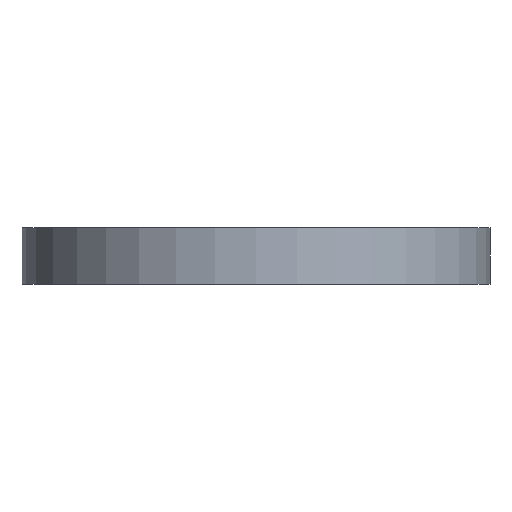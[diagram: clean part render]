
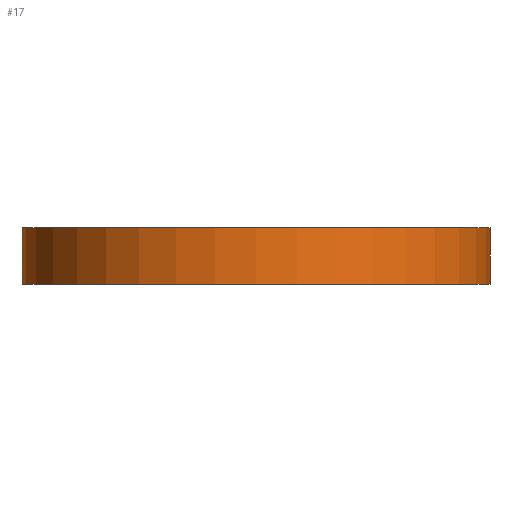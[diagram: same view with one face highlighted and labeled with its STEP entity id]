
A CAD part, front view. The second image highlights one B-rep face of the part: STEP entity #17.
In plain terms, the highlighted cylindrical face has radius 25 mm (diameter 50 mm), a full revolution.
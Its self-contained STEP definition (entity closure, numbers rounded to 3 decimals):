
#17 = ADVANCED_FACE('',(#18),#31,.T.);
#18 = FACE_BOUND('',#19,.T.);
#19 = EDGE_LOOP('',(#20,#54,#77,#104));
#20 = ORIENTED_EDGE('',*,*,#21,.F.);
#21 = EDGE_CURVE('',#22,#22,#24,.T.);
#22 = VERTEX_POINT('',#23);
#23 = CARTESIAN_POINT('',(25.,0.,6.));
#24 = SURFACE_CURVE('',#25,(#30,#42),.PCURVE_S1.);
#25 = CIRCLE('',#26,25.);
#26 = AXIS2_PLACEMENT_3D('',#27,#28,#29);
#27 = CARTESIAN_POINT('',(0.,0.,6.));
#28 = DIRECTION('',(0.,0.,1.));
#29 = DIRECTION('',(1.,0.,-0.));
#30 = PCURVE('',#31,#36);
#31 = CYLINDRICAL_SURFACE('',#32,25.);
#32 = AXIS2_PLACEMENT_3D('',#33,#34,#35);
#33 = CARTESIAN_POINT('',(0.,0.,0.));
#34 = DIRECTION('',(0.,0.,1.));
#35 = DIRECTION('',(1.,0.,-0.));
#36 = DEFINITIONAL_REPRESENTATION('',(#37),#41);
#37 = LINE('',#38,#39);
#38 = CARTESIAN_POINT('',(0.,6.));
#39 = VECTOR('',#40,1.);
#40 = DIRECTION('',(1.,0.));
#41 = ( GEOMETRIC_REPRESENTATION_CONTEXT(2) 
PARAMETRIC_REPRESENTATION_CONTEXT() REPRESENTATION_CONTEXT('2D SPACE',''
  ) );
#42 = PCURVE('',#43,#48);
#43 = PLANE('',#44);
#44 = AXIS2_PLACEMENT_3D('',#45,#46,#47);
#45 = CARTESIAN_POINT('',(0.,0.,6.));
#46 = DIRECTION('',(0.,0.,1.));
#47 = DIRECTION('',(1.,0.,-0.));
#48 = DEFINITIONAL_REPRESENTATION('',(#49),#53);
#49 = CIRCLE('',#50,25.);
#50 = AXIS2_PLACEMENT_2D('',#51,#52);
#51 = CARTESIAN_POINT('',(0.,0.));
#52 = DIRECTION('',(1.,0.));
#53 = ( GEOMETRIC_REPRESENTATION_CONTEXT(2) 
PARAMETRIC_REPRESENTATION_CONTEXT() REPRESENTATION_CONTEXT('2D SPACE',''
  ) );
#54 = ORIENTED_EDGE('',*,*,#55,.F.);
#55 = EDGE_CURVE('',#56,#22,#58,.T.);
#56 = VERTEX_POINT('',#57);
#57 = CARTESIAN_POINT('',(25.,0.,0.));
#58 = SEAM_CURVE('',#59,(#63,#70),.PCURVE_S1.);
#59 = LINE('',#60,#61);
#60 = CARTESIAN_POINT('',(25.,0.,0.));
#61 = VECTOR('',#62,1.);
#62 = DIRECTION('',(0.,0.,1.));
#63 = PCURVE('',#31,#64);
#64 = DEFINITIONAL_REPRESENTATION('',(#65),#69);
#65 = LINE('',#66,#67);
#66 = CARTESIAN_POINT('',(6.283,-0.));
#67 = VECTOR('',#68,1.);
#68 = DIRECTION('',(0.,1.));
#69 = ( GEOMETRIC_REPRESENTATION_CONTEXT(2) 
PARAMETRIC_REPRESENTATION_CONTEXT() REPRESENTATION_CONTEXT('2D SPACE',''
  ) );
#70 = PCURVE('',#31,#71);
#71 = DEFINITIONAL_REPRESENTATION('',(#72),#76);
#72 = LINE('',#73,#74);
#73 = CARTESIAN_POINT('',(0.,-0.));
#74 = VECTOR('',#75,1.);
#75 = DIRECTION('',(0.,1.));
#76 = ( GEOMETRIC_REPRESENTATION_CONTEXT(2) 
PARAMETRIC_REPRESENTATION_CONTEXT() REPRESENTATION_CONTEXT('2D SPACE',''
  ) );
#77 = ORIENTED_EDGE('',*,*,#78,.T.);
#78 = EDGE_CURVE('',#56,#56,#79,.T.);
#79 = SURFACE_CURVE('',#80,(#85,#92),.PCURVE_S1.);
#80 = CIRCLE('',#81,25.);
#81 = AXIS2_PLACEMENT_3D('',#82,#83,#84);
#82 = CARTESIAN_POINT('',(0.,0.,0.));
#83 = DIRECTION('',(0.,0.,1.));
#84 = DIRECTION('',(1.,0.,-0.));
#85 = PCURVE('',#31,#86);
#86 = DEFINITIONAL_REPRESENTATION('',(#87),#91);
#87 = LINE('',#88,#89);
#88 = CARTESIAN_POINT('',(0.,0.));
#89 = VECTOR('',#90,1.);
#90 = DIRECTION('',(1.,0.));
#91 = ( GEOMETRIC_REPRESENTATION_CONTEXT(2) 
PARAMETRIC_REPRESENTATION_CONTEXT() REPRESENTATION_CONTEXT('2D SPACE',''
  ) );
#92 = PCURVE('',#93,#98);
#93 = PLANE('',#94);
#94 = AXIS2_PLACEMENT_3D('',#95,#96,#97);
#95 = CARTESIAN_POINT('',(0.,0.,0.));
#96 = DIRECTION('',(0.,0.,1.));
#97 = DIRECTION('',(1.,0.,-0.));
#98 = DEFINITIONAL_REPRESENTATION('',(#99),#103);
#99 = CIRCLE('',#100,25.);
#100 = AXIS2_PLACEMENT_2D('',#101,#102);
#101 = CARTESIAN_POINT('',(0.,0.));
#102 = DIRECTION('',(1.,0.));
#103 = ( GEOMETRIC_REPRESENTATION_CONTEXT(2) 
PARAMETRIC_REPRESENTATION_CONTEXT() REPRESENTATION_CONTEXT('2D SPACE',''
  ) );
#104 = ORIENTED_EDGE('',*,*,#55,.T.);
